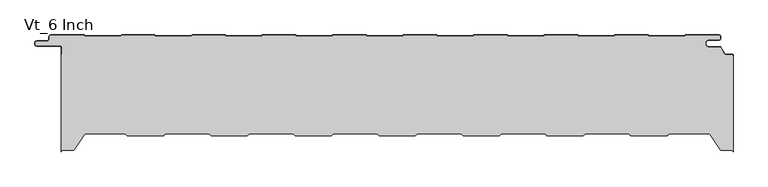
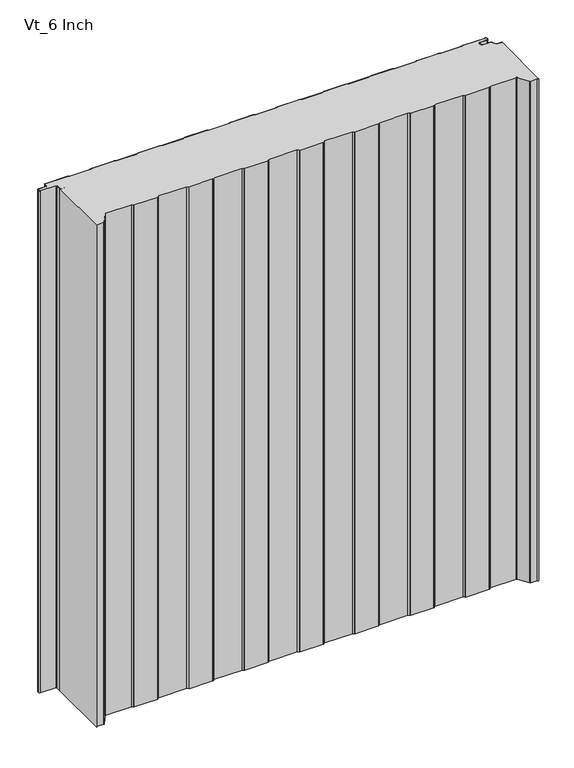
"""IFC4 building model written with IfcOpenShell, lengths in millimetres: plate geometry, KIP_R19_CP_KingSeam_Vt_Roof Panel : Vt_6 Inch."""

from ifc_helpers import new_model, si_unit, point, frame_2d, origin, origin_with_axes, place, context, project, spatial, polyline, circle_curve, trimmed, segment, composite_curve, outline, extrude, source, transform, mapped, element, save


def vt_6_inch_0f8d348a(model_context):
    return source(origin(), model_context, "Body", "SweptSolid", [
        extrude(outline(composite_curve([segment(trimmed(circle_curve(frame_2d((26.875, -150.9000006)), 1.4999999), [point((27.7535266, -152.1158093))], [point((26.875, -152.4000006))], False, "CARTESIAN"), True, "CONTINUOUS"), segment(polyline([(26.875, -152.4000006), (-26.875, -152.4000006)]), True, "CONTINUOUS"), segment(trimmed(circle_curve(frame_2d((-26.875, -150.9000005)), 1.5000001), [point((-26.875, -152.4000006))], [point((-27.7535268, -152.1158092))], False, "CARTESIAN"), True, "CONTINUOUS"), segment(polyline([(-27.7535268, -152.1158092), (-31.2132216, -149.6158809), (-95.786778, -149.6158809), (-99.2464733, -152.1158093)]), True, "CONTINUOUS"), segment(trimmed(circle_curve(frame_2d((-100.125, -150.9000006)), 1.4999999), [point((-99.2464733, -152.1158093))], [point((-100.125, -152.4000006))], False, "CARTESIAN"), True, "CONTINUOUS"), segment(polyline([(-100.125, -152.4000006), (-153.875, -152.4000006)]), True, "CONTINUOUS"), segment(trimmed(circle_curve(frame_2d((-153.875, -150.9000005)), 1.5000001), [point((-153.875, -152.4000006))], [point((-154.7535268, -152.1158092))], False, "CARTESIAN"), True, "CONTINUOUS"), segment(polyline([(-154.7535268, -152.1158092), (-158.2132216, -149.6158809), (-222.786778, -149.6158809), (-226.2464735, -152.1158092)]), True, "CONTINUOUS"), segment(trimmed(circle_curve(frame_2d((-227.125, -150.9000006)), 1.4999997), [point((-226.2464735, -152.1158092))], [point((-227.125, -152.4000004))], False, "CARTESIAN"), True, "CONTINUOUS"), segment(polyline([(-227.125, -152.4000004), (-280.875, -152.4000004)]), True, "CONTINUOUS"), segment(trimmed(circle_curve(frame_2d((-280.875, -150.9000003)), 1.5000001), [point((-280.875, -152.4000004))], [point((-281.7535268, -152.115809))], False, "CARTESIAN"), True, "CONTINUOUS"), segment(polyline([(-281.7535268, -152.115809), (-285.2132215, -149.6158807), (-349.7867784, -149.6158807), (-353.246473, -152.115809)]), True, "CONTINUOUS"), segment(trimmed(circle_curve(frame_2d((-354.125, -150.9000001)), 1.5000002), [point((-353.246473, -152.115809))], [point((-354.125, -152.4000003))], False, "CARTESIAN"), True, "CONTINUOUS"), segment(polyline([(-354.125, -152.4000003), (-407.8749999, -152.4000003)]), True, "CONTINUOUS"), segment(trimmed(circle_curve(frame_2d((-407.8749999, -150.9000002)), 1.5000002), [point((-407.8749999, -152.4000003))], [point((-408.7535268, -152.115809))], False, "CARTESIAN"), True, "CONTINUOUS"), segment(polyline([(-408.7535268, -152.115809), (-412.2132215, -149.6158807), (-471.3871492, -149.6158807)]), True, "CONTINUOUS"), segment(trimmed(circle_curve(frame_2d((-471.3871492, -152.1158809)), 2.5000002), [point((-471.3871492, -149.6158807))], [point((-473.4722192, -150.7365754))], True, "CARTESIAN"), True, "CONTINUOUS"), segment(polyline([(-473.4722192, -150.7365754), (-488.6756575, -173.7193254)]), True, "CONTINUOUS"), segment(trimmed(circle_curve(frame_2d((-490.3437134, -172.6158811)), 2.0), [point((-488.6756575, -173.7193254))], [point((-490.3437134, -174.6158811))], False, "CARTESIAN"), True, "CONTINUOUS"), segment(polyline([(-490.3437134, -174.6158811), (-505.9, -174.6158811)]), True, "CONTINUOUS"), segment(trimmed(circle_curve(frame_2d((-505.9, -176.7158809)), 2.0999999), [point((-505.9, -174.6158811))], [point((-507.9999998, -176.7158809))], True, "CARTESIAN"), True, "CONTINUOUS"), segment(polyline([(-507.9999998, -176.7158809), (-507.9999998, -29.9999994)]), True, "CONTINUOUS"), segment(trimmed(circle_curve(frame_2d((-505.9999998, -29.9999994)), 2.0), [point((-507.9999998, -29.9999994))], [point((-505.9999998, -31.9999994))], True, "CARTESIAN"), True, "CONTINUOUS"), segment(polyline([(-505.9999998, -31.9999994), (-498.4999998, -31.9999994), (-498.4999998, -31.1999994), (-505.9999998, -31.1999994)]), True, "CONTINUOUS"), segment(trimmed(circle_curve(frame_2d((-505.9999998, -29.6999994)), 1.5), [point((-505.9999998, -31.1999994))], [point((-507.4999998, -29.6999994))], False, "CARTESIAN"), True, "CONTINUOUS"), segment(polyline([(-507.4999998, -29.6999994), (-507.4999998, -18.4999994)]), True, "CONTINUOUS"), segment(trimmed(circle_curve(frame_2d((-509.4999998, -18.4999994)), 2.0), [point((-507.4999998, -18.4999994))], [point((-509.4999998, -16.4999994))], True, "CARTESIAN"), True, "CONTINUOUS"), segment(polyline([(-509.4999998, -16.4999994), (-544.9999998, -16.4999994)]), True, "CONTINUOUS"), segment(trimmed(circle_curve(frame_2d((-544.9999998, -13.9999994)), 2.5), [point((-544.9999998, -16.4999994))], [point((-547.4999998, -13.9999994))], False, "CARTESIAN"), True, "CONTINUOUS"), segment(polyline([(-547.4999998, -13.9999994), (-547.4999998, -11.9999994)]), True, "CONTINUOUS"), segment(trimmed(circle_curve(frame_2d((-544.9999998, -11.9999994)), 2.5), [point((-547.4999998, -11.9999994))], [point((-544.9999998, -9.4999994))], False, "CARTESIAN"), True, "CONTINUOUS"), segment(polyline([(-544.9999998, -9.4999994), (-529.2842001, -9.4999994)]), True, "CONTINUOUS"), segment(trimmed(circle_curve(frame_2d((-529.2842001, -6.4999994)), 3.0), [point((-529.2842001, -9.4999994))], [point((-526.2842001, -6.4999994))], True, "CARTESIAN"), True, "CONTINUOUS"), segment(polyline([(-526.2842001, -6.4999994), (-526.2842001, -2.9999994)]), True, "CONTINUOUS"), segment(trimmed(circle_curve(frame_2d((-524.2279507, -2.8161919)), 2.0644483), [point((-526.2842001, -2.9999994))], [point((-523.7842001, -0.7999994))], False, "CARTESIAN"), True, "CONTINUOUS"), segment(polyline([(-523.7842001, -0.7999994), (-474.0268775, -0.7999994)]), True, "CONTINUOUS"), segment(trimmed(circle_curve(frame_2d((-474.0268775, -3.1999994)), 2.4), [point((-474.0268775, -0.7999994))], [point((-473.0750562, -0.9968117))], False, "CARTESIAN"), True, "CONTINUOUS"), segment(polyline([(-473.0750562, -0.9968117), (-470.684957, -2.0293826)]), True, "CONTINUOUS"), segment(trimmed(circle_curve(frame_2d((-469.3762026, 1.0000006)), 3.3), [point((-470.684957, -2.0293826))], [point((-469.3762026, -2.2999994))], True, "CARTESIAN"), True, "CONTINUOUS"), segment(polyline([(-469.3762026, -2.2999994), (-420.9921975, -2.2999994)]), True, "CONTINUOUS"), segment(trimmed(circle_curve(frame_2d((-420.9921975, 1.0000006)), 3.3), [point((-420.9921975, -2.2999994))], [point((-419.6834432, -2.0293826))], True, "CARTESIAN"), True, "CONTINUOUS"), segment(polyline([(-419.6834432, -2.0293826), (-417.293344, -0.9968117)]), True, "CONTINUOUS"), segment(trimmed(circle_curve(frame_2d((-416.3415226, -3.1999994)), 2.4), [point((-417.293344, -0.9968117))], [point((-416.3415226, -0.7999994))], False, "CARTESIAN"), True, "CONTINUOUS"), segment(polyline([(-416.3415226, -0.7999994), (-367.4268775, -0.7999994)]), True, "CONTINUOUS"), segment(trimmed(circle_curve(frame_2d((-367.4268775, -3.1999994)), 2.4), [point((-367.4268775, -0.7999994))], [point((-366.4750562, -0.9968117))], False, "CARTESIAN"), True, "CONTINUOUS"), segment(polyline([(-366.4750562, -0.9968117), (-364.084957, -2.0293826)]), True, "CONTINUOUS"), segment(trimmed(circle_curve(frame_2d((-362.7762026, 1.0000006)), 3.3), [point((-364.084957, -2.0293826))], [point((-362.7762026, -2.2999994))], True, "CARTESIAN"), True, "CONTINUOUS"), segment(polyline([(-362.7762026, -2.2999994), (-314.3921975, -2.2999994)]), True, "CONTINUOUS"), segment(trimmed(circle_curve(frame_2d((-314.3921975, 1.0000006)), 3.3), [point((-314.3921975, -2.2999994))], [point((-313.0834432, -2.0293826))], True, "CARTESIAN"), True, "CONTINUOUS"), segment(polyline([(-313.0834432, -2.0293826), (-310.693344, -0.9968117)]), True, "CONTINUOUS"), segment(trimmed(circle_curve(frame_2d((-309.7415226, -3.1999994)), 2.4), [point((-310.693344, -0.9968117))], [point((-309.7415226, -0.7999994))], False, "CARTESIAN"), True, "CONTINUOUS"), segment(polyline([(-309.7415226, -0.7999994), (-260.8268775, -0.7999994)]), True, "CONTINUOUS"), segment(trimmed(circle_curve(frame_2d((-260.8268775, -3.1999994)), 2.4), [point((-260.8268775, -0.7999994))], [point((-259.8750562, -0.9968117))], False, "CARTESIAN"), True, "CONTINUOUS"), segment(polyline([(-259.8750562, -0.9968117), (-257.484957, -2.0293826)]), True, "CONTINUOUS"), segment(trimmed(circle_curve(frame_2d((-256.1762026, 1.0000006)), 3.3), [point((-257.484957, -2.0293826))], [point((-256.1762026, -2.2999994))], True, "CARTESIAN"), True, "CONTINUOUS"), segment(polyline([(-256.1762026, -2.2999994), (-207.7921975, -2.2999994)]), True, "CONTINUOUS"), segment(trimmed(circle_curve(frame_2d((-207.7921975, 1.0000006)), 3.3), [point((-207.7921975, -2.2999994))], [point((-206.4834432, -2.0293826))], True, "CARTESIAN"), True, "CONTINUOUS"), segment(polyline([(-206.4834432, -2.0293826), (-204.093344, -0.9968117)]), True, "CONTINUOUS"), segment(trimmed(circle_curve(frame_2d((-203.1415226, -3.1999994)), 2.4), [point((-204.093344, -0.9968117))], [point((-203.1415226, -0.7999994))], False, "CARTESIAN"), True, "CONTINUOUS"), segment(polyline([(-203.1415226, -0.7999994), (-154.2268775, -0.7999994)]), True, "CONTINUOUS"), segment(trimmed(circle_curve(frame_2d((-154.2268775, -3.1999994)), 2.4), [point((-154.2268775, -0.7999994))], [point((-153.2750562, -0.9968117))], False, "CARTESIAN"), True, "CONTINUOUS"), segment(polyline([(-153.2750562, -0.9968117), (-150.884957, -2.0293826)]), True, "CONTINUOUS"), segment(trimmed(circle_curve(frame_2d((-149.5762026, 1.0000006)), 3.3), [point((-150.884957, -2.0293826))], [point((-149.5762026, -2.2999994))], True, "CARTESIAN"), True, "CONTINUOUS"), segment(polyline([(-149.5762026, -2.2999994), (-101.1921975, -2.2999994)]), True, "CONTINUOUS"), segment(trimmed(circle_curve(frame_2d((-101.1921975, 1.0000006)), 3.3), [point((-101.1921975, -2.2999994))], [point((-99.8834432, -2.0293826))], True, "CARTESIAN"), True, "CONTINUOUS"), segment(polyline([(-99.8834432, -2.0293826), (-97.493344, -0.9968117)]), True, "CONTINUOUS"), segment(trimmed(circle_curve(frame_2d((-96.5415226, -3.1999994)), 2.4), [point((-97.493344, -0.9968117))], [point((-96.5415226, -0.7999994))], False, "CARTESIAN"), True, "CONTINUOUS"), segment(polyline([(-96.5415226, -0.7999994), (-47.6268775, -0.7999994)]), True, "CONTINUOUS"), segment(trimmed(circle_curve(frame_2d((-47.6268775, -3.1999994)), 2.4), [point((-47.6268775, -0.7999994))], [point((-46.6750562, -0.9968117))], False, "CARTESIAN"), True, "CONTINUOUS"), segment(polyline([(-46.6750562, -0.9968117), (-44.284957, -2.0293826)]), True, "CONTINUOUS"), segment(trimmed(circle_curve(frame_2d((-42.9762026, 1.0000006)), 3.3), [point((-44.284957, -2.0293826))], [point((-42.9762026, -2.2999994))], True, "CARTESIAN"), True, "CONTINUOUS"), segment(polyline([(-42.9762026, -2.2999994), (5.4078025, -2.2999994)]), True, "CONTINUOUS"), segment(trimmed(circle_curve(frame_2d((5.4078025, 1.0000006)), 3.3), [point((5.4078025, -2.2999994))], [point((6.7165568, -2.0293826))], True, "CARTESIAN"), True, "CONTINUOUS"), segment(polyline([(6.7165568, -2.0293826), (9.106656, -0.9968117)]), True, "CONTINUOUS"), segment(trimmed(circle_curve(frame_2d((10.0584774, -3.1999994)), 2.4), [point((9.106656, -0.9968117))], [point((10.0584774, -0.7999994))], False, "CARTESIAN"), True, "CONTINUOUS"), segment(polyline([(10.0584774, -0.7999994), (58.9731225, -0.7999994)]), True, "CONTINUOUS"), segment(trimmed(circle_curve(frame_2d((58.9731225, -3.1999994)), 2.4), [point((58.9731225, -0.7999994))], [point((59.9249438, -0.9968117))], False, "CARTESIAN"), True, "CONTINUOUS"), segment(polyline([(59.9249438, -0.9968117), (62.315043, -2.0293826)]), True, "CONTINUOUS"), segment(trimmed(circle_curve(frame_2d((63.6237974, 1.0000006)), 3.3), [point((62.315043, -2.0293826))], [point((63.6237974, -2.2999994))], True, "CARTESIAN"), True, "CONTINUOUS"), segment(polyline([(63.6237974, -2.2999994), (112.0078025, -2.2999994)]), True, "CONTINUOUS"), segment(trimmed(circle_curve(frame_2d((112.0078025, 1.0000006)), 3.3), [point((112.0078025, -2.2999994))], [point((113.3165568, -2.0293826))], True, "CARTESIAN"), True, "CONTINUOUS"), segment(polyline([(113.3165568, -2.0293826), (115.706656, -0.9968117)]), True, "CONTINUOUS"), segment(trimmed(circle_curve(frame_2d((116.6584774, -3.1999994)), 2.4), [point((115.706656, -0.9968117))], [point((116.6584774, -0.7999994))], False, "CARTESIAN"), True, "CONTINUOUS"), segment(polyline([(116.6584774, -0.7999994), (165.5731225, -0.7999994)]), True, "CONTINUOUS"), segment(trimmed(circle_curve(frame_2d((165.5731225, -3.1999994)), 2.4), [point((165.5731225, -0.7999994))], [point((166.5249438, -0.9968117))], False, "CARTESIAN"), True, "CONTINUOUS"), segment(polyline([(166.5249438, -0.9968117), (168.915043, -2.0293826)]), True, "CONTINUOUS"), segment(trimmed(circle_curve(frame_2d((170.2237974, 1.0000006)), 3.3), [point((168.915043, -2.0293826))], [point((170.2237974, -2.2999994))], True, "CARTESIAN"), True, "CONTINUOUS"), segment(polyline([(170.2237974, -2.2999994), (218.6078025, -2.2999994)]), True, "CONTINUOUS"), segment(trimmed(circle_curve(frame_2d((218.6078025, 1.0000006)), 3.3), [point((218.6078025, -2.2999994))], [point((219.9165568, -2.0293826))], True, "CARTESIAN"), True, "CONTINUOUS"), segment(polyline([(219.9165568, -2.0293826), (222.306656, -0.9968117)]), True, "CONTINUOUS"), segment(trimmed(circle_curve(frame_2d((223.2584774, -3.1999994)), 2.4), [point((222.306656, -0.9968117))], [point((223.2584774, -0.7999994))], False, "CARTESIAN"), True, "CONTINUOUS"), segment(polyline([(223.2584774, -0.7999994), (272.1731225, -0.7999994)]), True, "CONTINUOUS"), segment(trimmed(circle_curve(frame_2d((272.1731225, -3.1999994)), 2.4), [point((272.1731225, -0.7999994))], [point((273.1249438, -0.9968117))], False, "CARTESIAN"), True, "CONTINUOUS"), segment(polyline([(273.1249438, -0.9968117), (275.515043, -2.0293826)]), True, "CONTINUOUS"), segment(trimmed(circle_curve(frame_2d((276.8237974, 1.0000006)), 3.3), [point((275.515043, -2.0293826))], [point((276.8237974, -2.2999994))], True, "CARTESIAN"), True, "CONTINUOUS"), segment(polyline([(276.8237974, -2.2999994), (325.2078025, -2.2999994)]), True, "CONTINUOUS"), segment(trimmed(circle_curve(frame_2d((325.2078025, 1.0000006)), 3.3), [point((325.2078025, -2.2999994))], [point((326.5165568, -2.0293826))], True, "CARTESIAN"), True, "CONTINUOUS"), segment(polyline([(326.5165568, -2.0293826), (328.906656, -0.9968117)]), True, "CONTINUOUS"), segment(trimmed(circle_curve(frame_2d((329.8584774, -3.1999994)), 2.4), [point((328.906656, -0.9968117))], [point((329.8584774, -0.7999994))], False, "CARTESIAN"), True, "CONTINUOUS"), segment(polyline([(329.8584774, -0.7999994), (378.7731225, -0.7999994)]), True, "CONTINUOUS"), segment(trimmed(circle_curve(frame_2d((378.7731225, -3.1999994)), 2.4), [point((378.7731225, -0.7999994))], [point((379.7249438, -0.9968117))], False, "CARTESIAN"), True, "CONTINUOUS"), segment(polyline([(379.7249438, -0.9968117), (382.115043, -2.0293826)]), True, "CONTINUOUS"), segment(trimmed(circle_curve(frame_2d((383.4237974, 1.0000006)), 3.3), [point((382.115043, -2.0293826))], [point((383.4237974, -2.2999994))], True, "CARTESIAN"), True, "CONTINUOUS"), segment(polyline([(383.4237974, -2.2999994), (431.8078025, -2.2999994)]), True, "CONTINUOUS"), segment(trimmed(circle_curve(frame_2d((431.8078025, 1.0000006)), 3.3), [point((431.8078025, -2.2999994))], [point((433.1165568, -2.0293826))], True, "CARTESIAN"), True, "CONTINUOUS"), segment(polyline([(433.1165568, -2.0293826), (435.506656, -0.9968117)]), True, "CONTINUOUS"), segment(trimmed(circle_curve(frame_2d((436.4584774, -3.1999994)), 2.4), [point((435.506656, -0.9968117))], [point((436.4584774, -0.7999994))], False, "CARTESIAN"), True, "CONTINUOUS"), segment(polyline([(436.4584774, -0.7999994), (486.2157999, -0.7999994)]), True, "CONTINUOUS"), segment(trimmed(circle_curve(frame_2d((486.6595506, -2.8161919)), 2.0644483), [point((486.2157999, -0.7999994))], [point((488.7157999, -2.9999994))], False, "CARTESIAN"), True, "CONTINUOUS"), segment(polyline([(488.7157999, -2.9999994), (488.7157999, -4.9999994)]), True, "CONTINUOUS"), segment(trimmed(circle_curve(frame_2d((486.2157999, -4.9999994)), 2.5), [point((488.7157999, -4.9999994))], [point((486.2157999, -7.4999994))], False, "CARTESIAN"), True, "CONTINUOUS"), segment(polyline([(486.2157999, -7.4999994), (471.2500002, -7.4999994)]), True, "CONTINUOUS"), segment(trimmed(circle_curve(frame_2d((471.2500002, -12.2499994)), 4.75), [point((471.2500002, -7.4999994))], [point((466.5000002, -12.2499994))], True, "CARTESIAN"), True, "CONTINUOUS"), segment(polyline([(466.5000002, -12.2499994), (466.5000002, -13.7499994)]), True, "CONTINUOUS"), segment(trimmed(circle_curve(frame_2d((471.2500002, -13.7499994)), 4.75), [point((466.5000002, -13.7499994))], [point((471.2500002, -18.4999994))], True, "CARTESIAN"), True, "CONTINUOUS"), segment(polyline([(471.2500002, -18.4999994), (488.3513452, -18.4999994)]), True, "CONTINUOUS"), segment(trimmed(circle_curve(frame_2d((488.3513452, -19.4999994)), 1.0), [point((488.3513452, -18.4999994))], [point((489.2165838, -18.9986392))], False, "CARTESIAN"), True, "CONTINUOUS"), segment(polyline([(489.2165838, -18.9986392), (494.8780846, -28.7691573)]), True, "CONTINUOUS"), segment(trimmed(circle_curve(frame_2d((496.6085619, -27.7664368)), 2.0), [point((494.8780846, -28.7691573))], [point((496.6085619, -29.7664368))], True, "CARTESIAN"), True, "CONTINUOUS"), segment(polyline([(496.6085619, -29.7664368), (506.2, -29.7664368)]), True, "CONTINUOUS"), segment(trimmed(circle_curve(frame_2d((506.2, -30.7664368)), 1.0), [point((506.2, -29.7664368))], [point((507.2, -30.7664368))], False, "CARTESIAN"), True, "CONTINUOUS"), segment(polyline([(507.2, -30.7664368), (507.2, -31.9999994), (507.9999999, -31.9999994), (507.9999999, -176.7158808)]), True, "CONTINUOUS"), segment(trimmed(circle_curve(frame_2d((505.8999999, -176.7158808)), 2.1), [point((507.9999999, -176.7158808))], [point((505.8999999, -174.6158808))], True, "CARTESIAN"), True, "CONTINUOUS"), segment(polyline([(505.8999999, -174.6158808), (490.3437133, -174.6158808)]), True, "CONTINUOUS"), segment(trimmed(circle_curve(frame_2d((490.3437133, -172.6158808)), 2.0), [point((490.3437133, -174.6158808))], [point((488.6756574, -173.7193251))], False, "CARTESIAN"), True, "CONTINUOUS"), segment(polyline([(488.6756574, -173.7193251), (473.4722191, -150.7365754)]), True, "CONTINUOUS"), segment(trimmed(circle_curve(frame_2d((471.3871492, -152.1158808)), 2.5), [point((473.4722191, -150.7365754))], [point((471.3871492, -149.6158808))], True, "CARTESIAN"), True, "CONTINUOUS"), segment(polyline([(471.3871492, -149.6158808), (412.2132217, -149.6158808), (408.7535265, -152.1158088)]), True, "CONTINUOUS"), segment(trimmed(circle_curve(frame_2d((407.8749999, -150.9000001)), 1.4999999), [point((408.7535265, -152.1158088))], [point((407.8749999, -152.4))], False, "CARTESIAN"), True, "CONTINUOUS"), segment(polyline([(407.8749999, -152.4), (354.125, -152.4)]), True, "CONTINUOUS"), segment(trimmed(circle_curve(frame_2d((354.125, -150.8999999)), 1.5000001), [point((354.125, -152.4))], [point((353.2464731, -152.1158086))], False, "CARTESIAN"), True, "CONTINUOUS"), segment(polyline([(353.2464731, -152.1158086), (349.7867784, -149.6158803), (285.2132225, -149.6158803), (281.7535266, -152.1158091)]), True, "CONTINUOUS"), segment(trimmed(circle_curve(frame_2d((280.875, -150.9000005)), 1.4999999), [point((281.7535266, -152.1158091))], [point((280.875, -152.4000004))], False, "CARTESIAN"), True, "CONTINUOUS"), segment(polyline([(280.875, -152.4000004), (227.125, -152.4000004)]), True, "CONTINUOUS"), segment(trimmed(circle_curve(frame_2d((227.125, -150.9000003)), 1.5000001), [point((227.125, -152.4000004))], [point((226.2464732, -152.115809))], False, "CARTESIAN"), True, "CONTINUOUS"), segment(polyline([(226.2464732, -152.115809), (222.7867784, -149.6158807), (158.2132215, -149.6158807), (154.7535267, -152.1158089)]), True, "CONTINUOUS"), segment(trimmed(circle_curve(frame_2d((153.875, -150.9000002)), 1.5), [point((154.7535267, -152.1158089))], [point((153.875, -152.4000002))], False, "CARTESIAN"), True, "CONTINUOUS"), segment(polyline([(153.875, -152.4000002), (100.125, -152.4000003)]), True, "CONTINUOUS"), segment(trimmed(circle_curve(frame_2d((100.125, -150.9000003)), 1.4999999), [point((100.125, -152.4000003))], [point((99.2464733, -152.115809))], False, "CARTESIAN"), True, "CONTINUOUS"), segment(polyline([(99.2464733, -152.115809), (95.7867784, -149.6158809), (31.213222, -149.6158809), (27.7535266, -152.1158093)]), True, "CONTINUOUS")], self_intersect=False)), origin_with_axes(), (0.0, 0.0, 1.0), 1219.2),
        extrude(outline(composite_curve([segment(trimmed(circle_curve(frame_2d((-506.0157998, -30.0)), 2.0), [point((-506.0157998, -32.0))], [point((-508.0157998, -30.0))], False, "CARTESIAN"), True, "CONTINUOUS"), segment(polyline([(-508.0157998, -30.0), (-508.0157998, -18.5)]), True, "CONTINUOUS"), segment(trimmed(circle_curve(frame_2d((-509.5157998, -18.5)), 1.5), [point((-508.0157998, -18.5))], [point((-509.5157998, -17.0))], True, "CARTESIAN"), True, "CONTINUOUS"), segment(polyline([(-509.5157998, -17.0), (-545.0157998, -17.0)]), True, "CONTINUOUS"), segment(trimmed(circle_curve(frame_2d((-545.0157998, -14.0)), 3.0), [point((-545.0157998, -17.0))], [point((-548.0157998, -14.0))], False, "CARTESIAN"), True, "CONTINUOUS"), segment(polyline([(-548.0157998, -14.0), (-548.0157998, -12.0)]), True, "CONTINUOUS"), segment(trimmed(circle_curve(frame_2d((-545.0157998, -12.0)), 3.0), [point((-548.0157998, -12.0))], [point((-545.0157998, -9.0))], False, "CARTESIAN"), True, "CONTINUOUS"), segment(polyline([(-545.0157998, -9.0), (-529.3, -9.0)]), True, "CONTINUOUS"), segment(trimmed(circle_curve(frame_2d((-529.3, -6.5)), 2.5), [point((-529.3, -9.0))], [point((-526.8, -6.5))], True, "CARTESIAN"), True, "CONTINUOUS"), segment(polyline([(-526.8, -6.5), (-526.8, -3.0)]), True, "CONTINUOUS"), segment(trimmed(circle_curve(frame_2d((-523.8, -3.0)), 3.0), [point((-526.8, -3.0))], [point((-523.8, 0.0))], False, "CARTESIAN"), True, "CONTINUOUS"), segment(polyline([(-523.8, 0.0), (-474.0426774, 0.0)]), True, "CONTINUOUS"), segment(trimmed(circle_curve(frame_2d((-474.0426774, -3.2)), 3.2), [point((-474.0426774, 0.0))], [point((-472.7735823, -0.2624164))], False, "CARTESIAN"), True, "CONTINUOUS"), segment(polyline([(-472.7735823, -0.2624164), (-470.3834831, -1.2949872)]), True, "CONTINUOUS"), segment(trimmed(circle_curve(frame_2d((-469.3920026, 1.0)), 2.5), [point((-470.3834831, -1.2949872))], [point((-469.3920026, -1.5))], True, "CARTESIAN"), True, "CONTINUOUS"), segment(polyline([(-469.3920026, -1.5), (-421.0079974, -1.5)]), True, "CONTINUOUS"), segment(trimmed(circle_curve(frame_2d((-421.0079974, 1.0)), 2.5), [point((-421.0079974, -1.5))], [point((-420.0165169, -1.2949872))], True, "CARTESIAN"), True, "CONTINUOUS"), segment(polyline([(-420.0165169, -1.2949872), (-417.6264177, -0.2624164)]), True, "CONTINUOUS"), segment(trimmed(circle_curve(frame_2d((-416.3573226, -3.2)), 3.2), [point((-417.6264177, -0.2624164))], [point((-416.3573226, 0.0))], False, "CARTESIAN"), True, "CONTINUOUS"), segment(polyline([(-416.3573226, 0.0), (-367.4426774, 0.0)]), True, "CONTINUOUS"), segment(trimmed(circle_curve(frame_2d((-367.4426774, -3.2)), 3.2), [point((-367.4426774, 0.0))], [point((-366.1735823, -0.2624164))], False, "CARTESIAN"), True, "CONTINUOUS"), segment(polyline([(-366.1735823, -0.2624164), (-363.7834831, -1.2949872)]), True, "CONTINUOUS"), segment(trimmed(circle_curve(frame_2d((-362.7920026, 1.0)), 2.5), [point((-363.7834831, -1.2949872))], [point((-362.7920026, -1.5))], True, "CARTESIAN"), True, "CONTINUOUS"), segment(polyline([(-362.7920026, -1.5), (-314.4079974, -1.5)]), True, "CONTINUOUS"), segment(trimmed(circle_curve(frame_2d((-314.4079974, 1.0)), 2.5), [point((-314.4079974, -1.5))], [point((-313.4165169, -1.2949872))], True, "CARTESIAN"), True, "CONTINUOUS"), segment(polyline([(-313.4165169, -1.2949872), (-311.0264177, -0.2624164)]), True, "CONTINUOUS"), segment(trimmed(circle_curve(frame_2d((-309.7573226, -3.2)), 3.2), [point((-311.0264177, -0.2624164))], [point((-309.7573226, 0.0))], False, "CARTESIAN"), True, "CONTINUOUS"), segment(polyline([(-309.7573226, 0.0), (-260.8426774, 0.0)]), True, "CONTINUOUS"), segment(trimmed(circle_curve(frame_2d((-260.8426774, -3.2)), 3.2), [point((-260.8426774, 0.0))], [point((-259.5735823, -0.2624164))], False, "CARTESIAN"), True, "CONTINUOUS"), segment(polyline([(-259.5735823, -0.2624164), (-257.1834831, -1.2949872)]), True, "CONTINUOUS"), segment(trimmed(circle_curve(frame_2d((-256.1920026, 1.0)), 2.5), [point((-257.1834831, -1.2949872))], [point((-256.1920026, -1.5))], True, "CARTESIAN"), True, "CONTINUOUS"), segment(polyline([(-256.1920026, -1.5), (-207.8079974, -1.5)]), True, "CONTINUOUS"), segment(trimmed(circle_curve(frame_2d((-207.8079974, 1.0)), 2.5), [point((-207.8079974, -1.5))], [point((-206.8165169, -1.2949872))], True, "CARTESIAN"), True, "CONTINUOUS"), segment(polyline([(-206.8165169, -1.2949872), (-204.4264177, -0.2624164)]), True, "CONTINUOUS"), segment(trimmed(circle_curve(frame_2d((-203.1573226, -3.2)), 3.2), [point((-204.4264177, -0.2624164))], [point((-203.1573226, 0.0))], False, "CARTESIAN"), True, "CONTINUOUS"), segment(polyline([(-203.1573226, 0.0), (-154.2426774, 0.0)]), True, "CONTINUOUS"), segment(trimmed(circle_curve(frame_2d((-154.2426774, -3.2)), 3.2), [point((-154.2426774, 0.0))], [point((-152.9735823, -0.2624164))], False, "CARTESIAN"), True, "CONTINUOUS"), segment(polyline([(-152.9735823, -0.2624164), (-150.5834831, -1.2949872)]), True, "CONTINUOUS"), segment(trimmed(circle_curve(frame_2d((-149.5920026, 1.0)), 2.5), [point((-150.5834831, -1.2949872))], [point((-149.5920026, -1.5))], True, "CARTESIAN"), True, "CONTINUOUS"), segment(polyline([(-149.5920026, -1.5), (-101.2079974, -1.5)]), True, "CONTINUOUS"), segment(trimmed(circle_curve(frame_2d((-101.2079974, 1.0)), 2.5), [point((-101.2079974, -1.5))], [point((-100.2165169, -1.2949872))], True, "CARTESIAN"), True, "CONTINUOUS"), segment(polyline([(-100.2165169, -1.2949872), (-97.8264177, -0.2624164)]), True, "CONTINUOUS"), segment(trimmed(circle_curve(frame_2d((-96.5573226, -3.2)), 3.2), [point((-97.8264177, -0.2624164))], [point((-96.5573226, 0.0))], False, "CARTESIAN"), True, "CONTINUOUS"), segment(polyline([(-96.5573226, 0.0), (-47.6426774, 0.0)]), True, "CONTINUOUS"), segment(trimmed(circle_curve(frame_2d((-47.6426774, -3.2)), 3.2), [point((-47.6426774, 0.0))], [point((-46.3735823, -0.2624164))], False, "CARTESIAN"), True, "CONTINUOUS"), segment(polyline([(-46.3735823, -0.2624164), (-43.9834831, -1.2949872)]), True, "CONTINUOUS"), segment(trimmed(circle_curve(frame_2d((-42.9920026, 1.0)), 2.5), [point((-43.9834831, -1.2949872))], [point((-42.9920026, -1.5))], True, "CARTESIAN"), True, "CONTINUOUS"), segment(polyline([(-42.9920026, -1.5), (5.3920026, -1.5)]), True, "CONTINUOUS"), segment(trimmed(circle_curve(frame_2d((5.3920026, 1.0)), 2.5), [point((5.3920026, -1.5))], [point((6.3834831, -1.2949872))], True, "CARTESIAN"), True, "CONTINUOUS"), segment(polyline([(6.3834831, -1.2949872), (8.7735823, -0.2624164)]), True, "CONTINUOUS"), segment(trimmed(circle_curve(frame_2d((10.0426774, -3.2)), 3.2), [point((8.7735823, -0.2624164))], [point((10.0426774, 0.0))], False, "CARTESIAN"), True, "CONTINUOUS"), segment(polyline([(10.0426774, 0.0), (58.9573226, 0.0)]), True, "CONTINUOUS"), segment(trimmed(circle_curve(frame_2d((58.9573226, -3.2)), 3.2), [point((58.9573226, 0.0))], [point((60.2264177, -0.2624164))], False, "CARTESIAN"), True, "CONTINUOUS"), segment(polyline([(60.2264177, -0.2624164), (62.6165169, -1.2949872)]), True, "CONTINUOUS"), segment(trimmed(circle_curve(frame_2d((63.6079974, 1.0)), 2.5), [point((62.6165169, -1.2949872))], [point((63.6079974, -1.5))], True, "CARTESIAN"), True, "CONTINUOUS"), segment(polyline([(63.6079974, -1.5), (111.9920026, -1.5)]), True, "CONTINUOUS"), segment(trimmed(circle_curve(frame_2d((111.9920026, 1.0)), 2.5), [point((111.9920026, -1.5))], [point((112.9834831, -1.2949872))], True, "CARTESIAN"), True, "CONTINUOUS"), segment(polyline([(112.9834831, -1.2949872), (115.3735823, -0.2624164)]), True, "CONTINUOUS"), segment(trimmed(circle_curve(frame_2d((116.6426774, -3.2)), 3.2), [point((115.3735823, -0.2624164))], [point((116.6426774, 0.0))], False, "CARTESIAN"), True, "CONTINUOUS"), segment(polyline([(116.6426774, 0.0), (165.5573226, 0.0)]), True, "CONTINUOUS"), segment(trimmed(circle_curve(frame_2d((165.5573226, -3.2)), 3.2), [point((165.5573226, 0.0))], [point((166.8264177, -0.2624164))], False, "CARTESIAN"), True, "CONTINUOUS"), segment(polyline([(166.8264177, -0.2624164), (169.2165169, -1.2949872)]), True, "CONTINUOUS"), segment(trimmed(circle_curve(frame_2d((170.2079974, 1.0)), 2.5), [point((169.2165169, -1.2949872))], [point((170.2079974, -1.5))], True, "CARTESIAN"), True, "CONTINUOUS"), segment(polyline([(170.2079974, -1.5), (218.5920026, -1.5)]), True, "CONTINUOUS"), segment(trimmed(circle_curve(frame_2d((218.5920026, 1.0)), 2.5), [point((218.5920026, -1.5))], [point((219.5834831, -1.2949872))], True, "CARTESIAN"), True, "CONTINUOUS"), segment(polyline([(219.5834831, -1.2949872), (221.9735823, -0.2624164)]), True, "CONTINUOUS"), segment(trimmed(circle_curve(frame_2d((223.2426774, -3.2)), 3.2), [point((221.9735823, -0.2624164))], [point((223.2426774, 0.0))], False, "CARTESIAN"), True, "CONTINUOUS"), segment(polyline([(223.2426774, 0.0), (272.1573226, 0.0)]), True, "CONTINUOUS"), segment(trimmed(circle_curve(frame_2d((272.1573226, -3.2)), 3.2), [point((272.1573226, 0.0))], [point((273.4264177, -0.2624164))], False, "CARTESIAN"), True, "CONTINUOUS"), segment(polyline([(273.4264177, -0.2624164), (275.8165169, -1.2949872)]), True, "CONTINUOUS"), segment(trimmed(circle_curve(frame_2d((276.8079974, 1.0)), 2.5), [point((275.8165169, -1.2949872))], [point((276.8079974, -1.5))], True, "CARTESIAN"), True, "CONTINUOUS"), segment(polyline([(276.8079974, -1.5), (325.1920026, -1.5)]), True, "CONTINUOUS"), segment(trimmed(circle_curve(frame_2d((325.1920026, 1.0)), 2.5), [point((325.1920026, -1.5))], [point((326.1834831, -1.2949872))], True, "CARTESIAN"), True, "CONTINUOUS"), segment(polyline([(326.1834831, -1.2949872), (328.5735823, -0.2624164)]), True, "CONTINUOUS"), segment(trimmed(circle_curve(frame_2d((329.8426774, -3.2)), 3.2), [point((328.5735823, -0.2624164))], [point((329.8426774, 0.0))], False, "CARTESIAN"), True, "CONTINUOUS"), segment(polyline([(329.8426774, 0.0), (378.7573226, 0.0)]), True, "CONTINUOUS"), segment(trimmed(circle_curve(frame_2d((378.7573226, -3.2)), 3.2), [point((378.7573226, 0.0))], [point((380.0264177, -0.2624164))], False, "CARTESIAN"), True, "CONTINUOUS"), segment(polyline([(380.0264177, -0.2624164), (382.4165169, -1.2949872)]), True, "CONTINUOUS"), segment(trimmed(circle_curve(frame_2d((383.4079974, 1.0)), 2.5), [point((382.4165169, -1.2949872))], [point((383.4079974, -1.5))], True, "CARTESIAN"), True, "CONTINUOUS"), segment(polyline([(383.4079974, -1.5), (431.7920026, -1.5)]), True, "CONTINUOUS"), segment(trimmed(circle_curve(frame_2d((431.7920026, 1.0)), 2.5), [point((431.7920026, -1.5))], [point((432.7834831, -1.2949872))], True, "CARTESIAN"), True, "CONTINUOUS"), segment(polyline([(432.7834831, -1.2949872), (435.1735823, -0.2624164)]), True, "CONTINUOUS"), segment(trimmed(circle_curve(frame_2d((436.4426774, -3.2)), 3.2), [point((435.1735823, -0.2624164))], [point((436.4426774, 0.0))], False, "CARTESIAN"), True, "CONTINUOUS"), segment(polyline([(436.4426774, 0.0), (486.2, 0.0)]), True, "CONTINUOUS"), segment(trimmed(circle_curve(frame_2d((486.2, -3.0)), 3.0), [point((486.2, 0.0))], [point((489.2, -3.0))], False, "CARTESIAN"), True, "CONTINUOUS"), segment(polyline([(489.2, -3.0), (489.2, -5.0)]), True, "CONTINUOUS"), segment(trimmed(circle_curve(frame_2d((486.2, -5.0)), 3.0), [point((489.2, -5.0))], [point((486.2, -8.0))], False, "CARTESIAN"), True, "CONTINUOUS"), segment(polyline([(486.2, -8.0), (471.2342002, -8.0)]), True, "CONTINUOUS"), segment(trimmed(circle_curve(frame_2d((471.2342002, -12.25)), 4.25), [point((471.2342002, -8.0))], [point((466.9842002, -12.25))], True, "CARTESIAN"), True, "CONTINUOUS"), segment(polyline([(466.9842002, -12.25), (466.9842002, -13.75)]), True, "CONTINUOUS"), segment(trimmed(circle_curve(frame_2d((471.2342002, -13.75)), 4.25), [point((466.9842002, -13.75))], [point((471.2342002, -18.0))], True, "CARTESIAN"), True, "CONTINUOUS"), segment(polyline([(471.2342002, -18.0), (488.3355453, -18.0)]), True, "CONTINUOUS"), segment(trimmed(circle_curve(frame_2d((488.3355453, -19.5)), 1.5), [point((488.3355453, -18.0))], [point((489.6334032, -18.7479596))], False, "CARTESIAN"), True, "CONTINUOUS"), segment(polyline([(489.6334032, -18.7479596), (495.294904, -28.5184777)]), True, "CONTINUOUS"), segment(trimmed(circle_curve(frame_2d((496.592762, -27.7664374)), 1.5), [point((495.294904, -28.5184777))], [point((496.592762, -29.2664374))], True, "CARTESIAN"), True, "CONTINUOUS"), segment(polyline([(496.592762, -29.2664374), (506.4842001, -29.2664374)]), True, "CONTINUOUS"), segment(trimmed(circle_curve(frame_2d((506.4842001, -30.7664374)), 1.5), [point((506.4842001, -29.2664374))], [point((507.9842001, -30.7664374))], False, "CARTESIAN"), True, "CONTINUOUS"), segment(polyline([(507.9842001, -30.7664374), (507.9842001, -32.0), (507.1842001, -32.0), (507.1842001, -30.7664374)]), True, "CONTINUOUS"), segment(trimmed(circle_curve(frame_2d((506.1842001, -30.7664374)), 1.0), [point((507.1842001, -30.7664374))], [point((506.1842001, -29.7664374))], True, "CARTESIAN"), True, "CONTINUOUS"), segment(polyline([(506.1842001, -29.7664374), (496.592762, -29.7664374)]), True, "CONTINUOUS"), segment(trimmed(circle_curve(frame_2d((496.592762, -27.7664374)), 2.0), [point((496.592762, -29.7664374))], [point((494.8622847, -28.7691578))], False, "CARTESIAN"), True, "CONTINUOUS"), segment(polyline([(494.8622847, -28.7691578), (489.2007839, -18.9986398)]), True, "CONTINUOUS"), segment(trimmed(circle_curve(frame_2d((488.3355453, -19.5)), 1.0), [point((489.2007839, -18.9986398))], [point((488.3355453, -18.5))], True, "CARTESIAN"), True, "CONTINUOUS"), segment(polyline([(488.3355453, -18.5), (471.2342002, -18.5)]), True, "CONTINUOUS"), segment(trimmed(circle_curve(frame_2d((471.2342002, -13.75)), 4.75), [point((471.2342002, -18.5))], [point((466.4842002, -13.75))], False, "CARTESIAN"), True, "CONTINUOUS"), segment(polyline([(466.4842002, -13.75), (466.4842002, -12.25)]), True, "CONTINUOUS"), segment(trimmed(circle_curve(frame_2d((471.2342002, -12.25)), 4.75), [point((466.4842002, -12.25))], [point((471.2342002, -7.5))], False, "CARTESIAN"), True, "CONTINUOUS"), segment(polyline([(471.2342002, -7.5), (486.2, -7.5)]), True, "CONTINUOUS"), segment(trimmed(circle_curve(frame_2d((486.2, -5.0)), 2.5), [point((486.2, -7.5))], [point((488.7, -5.0))], True, "CARTESIAN"), True, "CONTINUOUS"), segment(polyline([(488.7, -5.0), (488.7, -3.0)]), True, "CONTINUOUS"), segment(trimmed(circle_curve(frame_2d((486.6437506, -2.8161925)), 2.0644483), [point((488.7, -3.0))], [point((486.2, -0.8))], True, "CARTESIAN"), True, "CONTINUOUS"), segment(polyline([(486.2, -0.8), (436.4426774, -0.8)]), True, "CONTINUOUS"), segment(trimmed(circle_curve(frame_2d((436.4426774, -3.2)), 2.4), [point((436.4426774, -0.8))], [point((435.4908561, -0.9968123))], True, "CARTESIAN"), True, "CONTINUOUS"), segment(polyline([(435.4908561, -0.9968123), (433.1007569, -2.0293831)]), True, "CONTINUOUS"), segment(trimmed(circle_curve(frame_2d((431.7920026, 1.0)), 3.3), [point((433.1007569, -2.0293831))], [point((431.7920026, -2.3))], False, "CARTESIAN"), True, "CONTINUOUS"), segment(polyline([(431.7920026, -2.3), (383.4079974, -2.3)]), True, "CONTINUOUS"), segment(trimmed(circle_curve(frame_2d((383.4079974, 1.0)), 3.3), [point((383.4079974, -2.3))], [point((382.0992431, -2.0293831))], False, "CARTESIAN"), True, "CONTINUOUS"), segment(polyline([(382.0992431, -2.0293831), (379.7091439, -0.9968123)]), True, "CONTINUOUS"), segment(trimmed(circle_curve(frame_2d((378.7573226, -3.2)), 2.4), [point((379.7091439, -0.9968123))], [point((378.7573226, -0.8))], True, "CARTESIAN"), True, "CONTINUOUS"), segment(polyline([(378.7573226, -0.8), (329.8426774, -0.8)]), True, "CONTINUOUS"), segment(trimmed(circle_curve(frame_2d((329.8426774, -3.2)), 2.4), [point((329.8426774, -0.8))], [point((328.8908561, -0.9968123))], True, "CARTESIAN"), True, "CONTINUOUS"), segment(polyline([(328.8908561, -0.9968123), (326.5007569, -2.0293831)]), True, "CONTINUOUS"), segment(trimmed(circle_curve(frame_2d((325.1920026, 1.0)), 3.3), [point((326.5007569, -2.0293831))], [point((325.1920026, -2.3))], False, "CARTESIAN"), True, "CONTINUOUS"), segment(polyline([(325.1920026, -2.3), (276.8079974, -2.3)]), True, "CONTINUOUS"), segment(trimmed(circle_curve(frame_2d((276.8079974, 1.0)), 3.3), [point((276.8079974, -2.3))], [point((275.4992431, -2.0293831))], False, "CARTESIAN"), True, "CONTINUOUS"), segment(polyline([(275.4992431, -2.0293831), (273.1091439, -0.9968123)]), True, "CONTINUOUS"), segment(trimmed(circle_curve(frame_2d((272.1573226, -3.2)), 2.4), [point((273.1091439, -0.9968123))], [point((272.1573226, -0.8))], True, "CARTESIAN"), True, "CONTINUOUS"), segment(polyline([(272.1573226, -0.8), (223.2426774, -0.8)]), True, "CONTINUOUS"), segment(trimmed(circle_curve(frame_2d((223.2426774, -3.2)), 2.4), [point((223.2426774, -0.8))], [point((222.2908561, -0.9968123))], True, "CARTESIAN"), True, "CONTINUOUS"), segment(polyline([(222.2908561, -0.9968123), (219.9007569, -2.0293831)]), True, "CONTINUOUS"), segment(trimmed(circle_curve(frame_2d((218.5920026, 1.0)), 3.3), [point((219.9007569, -2.0293831))], [point((218.5920026, -2.3))], False, "CARTESIAN"), True, "CONTINUOUS"), segment(polyline([(218.5920026, -2.3), (170.2079974, -2.3)]), True, "CONTINUOUS"), segment(trimmed(circle_curve(frame_2d((170.2079974, 1.0)), 3.3), [point((170.2079974, -2.3))], [point((168.8992431, -2.0293831))], False, "CARTESIAN"), True, "CONTINUOUS"), segment(polyline([(168.8992431, -2.0293831), (166.5091439, -0.9968123)]), True, "CONTINUOUS"), segment(trimmed(circle_curve(frame_2d((165.5573226, -3.2)), 2.4), [point((166.5091439, -0.9968123))], [point((165.5573226, -0.8))], True, "CARTESIAN"), True, "CONTINUOUS"), segment(polyline([(165.5573226, -0.8), (116.6426774, -0.8)]), True, "CONTINUOUS"), segment(trimmed(circle_curve(frame_2d((116.6426774, -3.2)), 2.4), [point((116.6426774, -0.8))], [point((115.6908561, -0.9968123))], True, "CARTESIAN"), True, "CONTINUOUS"), segment(polyline([(115.6908561, -0.9968123), (113.3007569, -2.0293831)]), True, "CONTINUOUS"), segment(trimmed(circle_curve(frame_2d((111.9920026, 1.0)), 3.3), [point((113.3007569, -2.0293831))], [point((111.9920026, -2.3))], False, "CARTESIAN"), True, "CONTINUOUS"), segment(polyline([(111.9920026, -2.3), (63.6079974, -2.3)]), True, "CONTINUOUS"), segment(trimmed(circle_curve(frame_2d((63.6079974, 1.0)), 3.3), [point((63.6079974, -2.3))], [point((62.2992431, -2.0293831))], False, "CARTESIAN"), True, "CONTINUOUS"), segment(polyline([(62.2992431, -2.0293831), (59.9091439, -0.9968123)]), True, "CONTINUOUS"), segment(trimmed(circle_curve(frame_2d((58.9573226, -3.2)), 2.4), [point((59.9091439, -0.9968123))], [point((58.9573226, -0.8))], True, "CARTESIAN"), True, "CONTINUOUS"), segment(polyline([(58.9573226, -0.8), (10.0426774, -0.8)]), True, "CONTINUOUS"), segment(trimmed(circle_curve(frame_2d((10.0426774, -3.2)), 2.4), [point((10.0426774, -0.8))], [point((9.0908561, -0.9968123))], True, "CARTESIAN"), True, "CONTINUOUS"), segment(polyline([(9.0908561, -0.9968123), (6.7007569, -2.0293831)]), True, "CONTINUOUS"), segment(trimmed(circle_curve(frame_2d((5.3920026, 1.0)), 3.3), [point((6.7007569, -2.0293831))], [point((5.3920026, -2.3))], False, "CARTESIAN"), True, "CONTINUOUS"), segment(polyline([(5.3920026, -2.3), (-42.9920026, -2.3)]), True, "CONTINUOUS"), segment(trimmed(circle_curve(frame_2d((-42.9920026, 1.0)), 3.3), [point((-42.9920026, -2.3))], [point((-44.3007569, -2.0293831))], False, "CARTESIAN"), True, "CONTINUOUS"), segment(polyline([(-44.3007569, -2.0293831), (-46.6908561, -0.9968123)]), True, "CONTINUOUS"), segment(trimmed(circle_curve(frame_2d((-47.6426774, -3.2)), 2.4), [point((-46.6908561, -0.9968123))], [point((-47.6426774, -0.8))], True, "CARTESIAN"), True, "CONTINUOUS"), segment(polyline([(-47.6426774, -0.8), (-96.5573226, -0.8)]), True, "CONTINUOUS"), segment(trimmed(circle_curve(frame_2d((-96.5573226, -3.2)), 2.4), [point((-96.5573226, -0.8))], [point((-97.5091439, -0.9968123))], True, "CARTESIAN"), True, "CONTINUOUS"), segment(polyline([(-97.5091439, -0.9968123), (-99.8992431, -2.0293831)]), True, "CONTINUOUS"), segment(trimmed(circle_curve(frame_2d((-101.2079974, 1.0)), 3.3), [point((-99.8992431, -2.0293831))], [point((-101.2079974, -2.3))], False, "CARTESIAN"), True, "CONTINUOUS"), segment(polyline([(-101.2079974, -2.3), (-149.5920026, -2.3)]), True, "CONTINUOUS"), segment(trimmed(circle_curve(frame_2d((-149.5920026, 1.0)), 3.3), [point((-149.5920026, -2.3))], [point((-150.9007569, -2.0293831))], False, "CARTESIAN"), True, "CONTINUOUS"), segment(polyline([(-150.9007569, -2.0293831), (-153.2908561, -0.9968123)]), True, "CONTINUOUS"), segment(trimmed(circle_curve(frame_2d((-154.2426774, -3.2)), 2.4), [point((-153.2908561, -0.9968123))], [point((-154.2426774, -0.8))], True, "CARTESIAN"), True, "CONTINUOUS"), segment(polyline([(-154.2426774, -0.8), (-203.1573226, -0.8)]), True, "CONTINUOUS"), segment(trimmed(circle_curve(frame_2d((-203.1573226, -3.2)), 2.4), [point((-203.1573226, -0.8))], [point((-204.1091439, -0.9968123))], True, "CARTESIAN"), True, "CONTINUOUS"), segment(polyline([(-204.1091439, -0.9968123), (-206.4992431, -2.0293831)]), True, "CONTINUOUS"), segment(trimmed(circle_curve(frame_2d((-207.8079974, 1.0)), 3.3), [point((-206.4992431, -2.0293831))], [point((-207.8079974, -2.3))], False, "CARTESIAN"), True, "CONTINUOUS"), segment(polyline([(-207.8079974, -2.3), (-256.1920026, -2.3)]), True, "CONTINUOUS"), segment(trimmed(circle_curve(frame_2d((-256.1920026, 1.0)), 3.3), [point((-256.1920026, -2.3))], [point((-257.5007569, -2.0293831))], False, "CARTESIAN"), True, "CONTINUOUS"), segment(polyline([(-257.5007569, -2.0293831), (-259.8908561, -0.9968123)]), True, "CONTINUOUS"), segment(trimmed(circle_curve(frame_2d((-260.8426774, -3.2)), 2.4), [point((-259.8908561, -0.9968123))], [point((-260.8426774, -0.8))], True, "CARTESIAN"), True, "CONTINUOUS"), segment(polyline([(-260.8426774, -0.8), (-309.7573226, -0.8)]), True, "CONTINUOUS"), segment(trimmed(circle_curve(frame_2d((-309.7573226, -3.2)), 2.4), [point((-309.7573226, -0.8))], [point((-310.7091439, -0.9968123))], True, "CARTESIAN"), True, "CONTINUOUS"), segment(polyline([(-310.7091439, -0.9968123), (-313.0992431, -2.0293831)]), True, "CONTINUOUS"), segment(trimmed(circle_curve(frame_2d((-314.4079974, 1.0)), 3.3), [point((-313.0992431, -2.0293831))], [point((-314.4079974, -2.3))], False, "CARTESIAN"), True, "CONTINUOUS"), segment(polyline([(-314.4079974, -2.3), (-362.7920026, -2.3)]), True, "CONTINUOUS"), segment(trimmed(circle_curve(frame_2d((-362.7920026, 1.0)), 3.3), [point((-362.7920026, -2.3))], [point((-364.1007569, -2.0293831))], False, "CARTESIAN"), True, "CONTINUOUS"), segment(polyline([(-364.1007569, -2.0293831), (-366.4908561, -0.9968123)]), True, "CONTINUOUS"), segment(trimmed(circle_curve(frame_2d((-367.4426774, -3.2)), 2.4), [point((-366.4908561, -0.9968123))], [point((-367.4426774, -0.8))], True, "CARTESIAN"), True, "CONTINUOUS"), segment(polyline([(-367.4426774, -0.8), (-416.3573226, -0.8)]), True, "CONTINUOUS"), segment(trimmed(circle_curve(frame_2d((-416.3573226, -3.2)), 2.4), [point((-416.3573226, -0.8))], [point((-417.3091439, -0.9968123))], True, "CARTESIAN"), True, "CONTINUOUS"), segment(polyline([(-417.3091439, -0.9968123), (-419.6992431, -2.0293831)]), True, "CONTINUOUS"), segment(trimmed(circle_curve(frame_2d((-421.0079974, 1.0)), 3.3), [point((-419.6992431, -2.0293831))], [point((-421.0079974, -2.3))], False, "CARTESIAN"), True, "CONTINUOUS"), segment(polyline([(-421.0079974, -2.3), (-469.3920026, -2.3)]), True, "CONTINUOUS"), segment(trimmed(circle_curve(frame_2d((-469.3920026, 1.0)), 3.3), [point((-469.3920026, -2.3))], [point((-470.7007569, -2.0293831))], False, "CARTESIAN"), True, "CONTINUOUS"), segment(polyline([(-470.7007569, -2.0293831), (-473.0908561, -0.9968123)]), True, "CONTINUOUS"), segment(trimmed(circle_curve(frame_2d((-474.0426774, -3.2)), 2.4), [point((-473.0908561, -0.9968123))], [point((-474.0426774, -0.8))], True, "CARTESIAN"), True, "CONTINUOUS"), segment(polyline([(-474.0426774, -0.8), (-523.8, -0.8)]), True, "CONTINUOUS"), segment(trimmed(circle_curve(frame_2d((-524.2437506, -2.8161925)), 2.0644483), [point((-523.8, -0.8))], [point((-526.3, -3.0))], True, "CARTESIAN"), True, "CONTINUOUS"), segment(polyline([(-526.3, -3.0), (-526.3, -6.5)]), True, "CONTINUOUS"), segment(trimmed(circle_curve(frame_2d((-529.3, -6.5)), 3.0), [point((-526.3, -6.5))], [point((-529.3, -9.5))], False, "CARTESIAN"), True, "CONTINUOUS"), segment(polyline([(-529.3, -9.5), (-545.0157998, -9.5)]), True, "CONTINUOUS"), segment(trimmed(circle_curve(frame_2d((-545.0157998, -12.0)), 2.5), [point((-545.0157998, -9.5))], [point((-547.5157998, -12.0))], True, "CARTESIAN"), True, "CONTINUOUS"), segment(polyline([(-547.5157998, -12.0), (-547.5157998, -14.0)]), True, "CONTINUOUS"), segment(trimmed(circle_curve(frame_2d((-545.0157998, -14.0)), 2.5), [point((-547.5157998, -14.0))], [point((-545.0157998, -16.5))], True, "CARTESIAN"), True, "CONTINUOUS"), segment(polyline([(-545.0157998, -16.5), (-509.5157998, -16.5)]), True, "CONTINUOUS"), segment(trimmed(circle_curve(frame_2d((-509.5157998, -18.5)), 2.0), [point((-509.5157998, -16.5))], [point((-507.5157998, -18.5))], False, "CARTESIAN"), True, "CONTINUOUS"), segment(polyline([(-507.5157998, -18.5), (-507.5157998, -29.7)]), True, "CONTINUOUS"), segment(trimmed(circle_curve(frame_2d((-506.0157998, -29.7)), 1.5), [point((-507.5157998, -29.7))], [point((-506.0157998, -31.2))], True, "CARTESIAN"), True, "CONTINUOUS"), segment(polyline([(-506.0157998, -31.2), (-498.5157998, -31.2), (-498.5157998, -32.0), (-506.0157998, -32.0)]), True, "CONTINUOUS")], self_intersect=False)), origin_with_axes(), (0.0, 0.0, 1.0), 1219.2),
    ])


if __name__ == "__main__":
    model = new_model("IFC4")
    model_context = context("Model", 3, world=origin())
    ifc_project = project(units=[si_unit("LENGTHUNIT", "METRE", prefix="MILLI")], contexts=[model_context])
    site = spatial("IfcSite", under=ifc_project)
    building = spatial("IfcBuilding", under=site)
    placement = place(None, origin())
    vt_6_inch_shape = vt_6_inch_0f8d348a(model_context)
    element("IfcPlate", 1, ObjectType="KIP_R19_CP_KingSeam_Vt_Roof Panel : Vt_6 Inch", at=placement, inside=building, context=model_context, shape_type="MappedRepresentation", body=[
        mapped(vt_6_inch_shape, transform((0.0, 0.0, 0.0), x_axis=(1.0, 0.0, 0.0), y_axis=(0.0, 1.0, 0.0), z_axis=(0.0, 0.0, 1.0))),
    ])
    save(model, "model.ifc")
